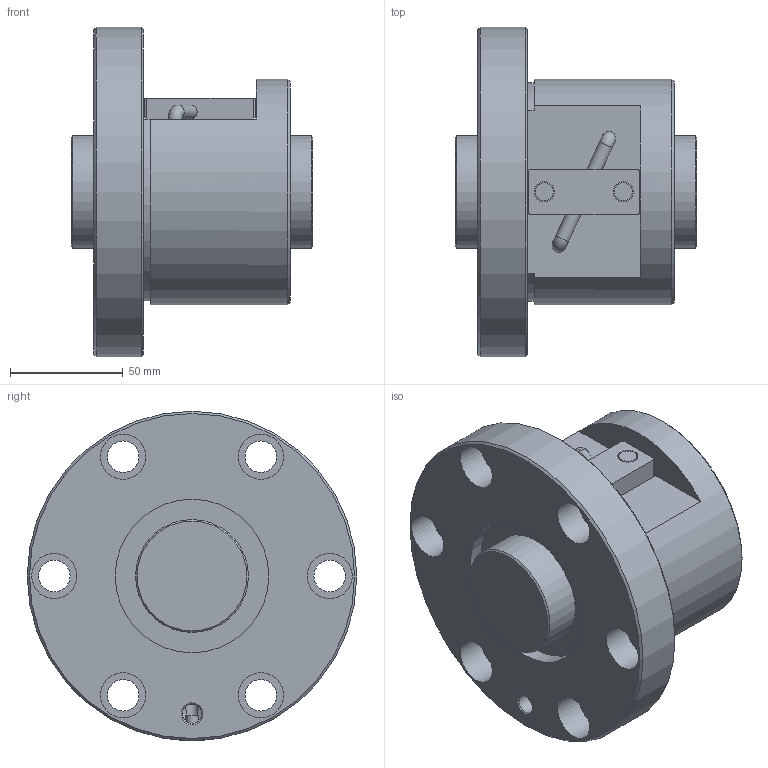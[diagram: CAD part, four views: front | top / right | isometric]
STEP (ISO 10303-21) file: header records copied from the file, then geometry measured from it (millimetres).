
FILE_DESCRIPTION(/* description */ ('STEP AP203'),/* implementation_level */ '2;1');
FILE_NAME(/* name */ 'BNF5012V-2.5RRG1+107LC0_000_rev',/* time_stamp */ '2024-08-06T09:08:02+02:00',/* author */ ('License CC BY-ND 4.0'),/* organization */ ('CADENAS'),/* preprocessor_version */ 'ST-DEVELOPER v19.3',/* originating_system */ 'PARTsolutions',/* authorisation */ ' ');
FILE_SCHEMA (('CONFIG_CONTROL_DESIGN'));
Length unit declared in the file: millimetre
Products named in the file (3): BNF5012V-2.5RRG1+107LC0_000_rev; BNF 5012-2.5RR000 Shaft; BNF 5012-2.5RR Nut
Assembly tree (2 placements, depth 2):
  BNF5012V-2.5RRG1+107LC0_000_rev
    BNF 5012-2.5RR000 Shaft
    BNF 5012-2.5RR Nut
Bounding box: 107 x 146 x 146 mm (x, y, z)
Volume: 823000.7 mm3; surface area: 105091.4 mm2
Topology: 2 solids, 2 shells, 70 faces, 152 edges, 99 vertices
Faces by surface type: cylinder 33, plane 27, cone 8, torus 2
Full cylindrical faces by diameter (mm): 5.5 x2, 6.198 x2, 8 x2, 8.566 x1, 9 x2, 14 x6, 20 x6, 50 x2, 68 x2, 100 x1, 146 x1
Entity records: 1813 total; most frequent: CARTESIAN_POINT 323, DIRECTION 316, ORIENTED_EDGE 210, AXIS2_PLACEMENT_3D 146, EDGE_LOOP 140, FACE_BOUND 140, EDGE_CURVE 105, VERTEX_POINT 89
